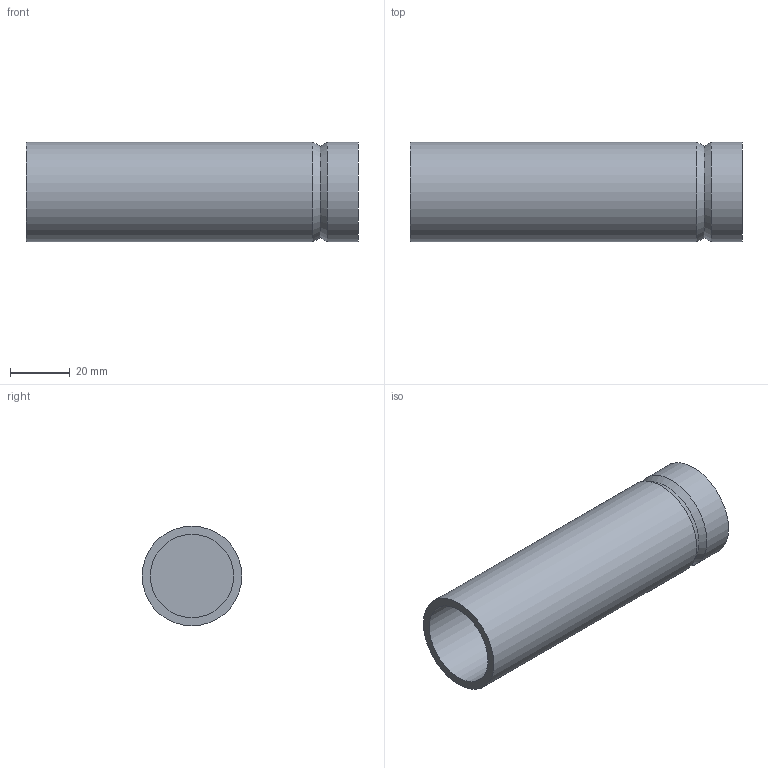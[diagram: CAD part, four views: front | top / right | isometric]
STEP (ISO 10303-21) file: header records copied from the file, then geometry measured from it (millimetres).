
FILE_DESCRIPTION(/* description */ ('VIC END CAP STYLE P540','CAx-IF Rec.Pracs.---Representation and Presentation of Product Manufacturing Information (PMI)---4.0---2014-10-13'),/* implementation_level */ '2;1');
FILE_NAME(/* name */ 'C:\Users\Vjadhav\AppData\Roaming\Autodesk\ApplicationPlugins\Back Up\Victaulic_SS-Vic-Press-TP 304_Cap_Style P540 (VP)\Victaulic_SS-Vic-Press-TP 304_Cap_Style P540 (VP)_1 (25).stp',/* time_stamp */ '2020-08-12T15:35:28+05:00',/* author */ ('cgray'),/* organization */ ('Victaulic'),/* preprocessor_version */ 'ST-DEVELOPER v17.2',/* originating_system */ 'Autodesk Inventor 2019',/* authorisation */ '');
FILE_SCHEMA (('AP242_MANAGED_MODEL_BASED_3D_ENGINEERING_MIM_LF { 1 0 10303 442 1 1 4 }'));
Length unit declared in the file: inch
Products named in the file (1): P540-01.0
Bounding box: 111.25 x 33.4 x 33.4 mm (x, y, z)
Volume: 30991 mm3; surface area: 22976.4 mm2
Topology: 1 solids, 1 shells, 8 faces, 19 edges, 14 vertices
Faces by surface type: plane 3, cylinder 3, cone 2
Full cylindrical faces by diameter (mm): 27.864 x1, 33.401 x2
Entity records: 389 total; most frequent: DIRECTION 77, CARTESIAN_POINT 59, ORIENTED_EDGE 38, AXIS2_PLACEMENT_3D 36, EDGE_CURVE 19, CIRCLE 14, VERTEX_POINT 14, STYLED_ITEM 10
